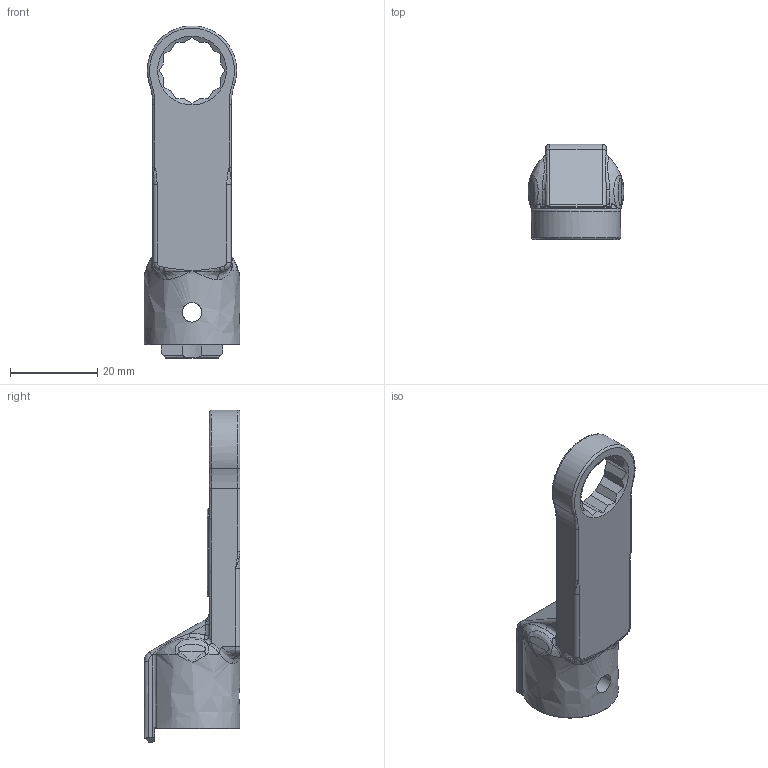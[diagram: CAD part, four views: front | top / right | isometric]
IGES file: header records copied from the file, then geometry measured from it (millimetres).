
Global section: file name: RH15DX13; native system: Autodesk Inventor 2016; preprocessor: unknown; author: Q600; date: 20151110.162136; units: millimetre
Bounding box: 22 x 22 x 76.23 mm (x, y, z)
Volume: 10461 mm3; surface area: 5618.3 mm2
Topology: 1 solids, 1 shells, 161 faces, 419 edges, 247 vertices
Faces by surface type: bspline 161
